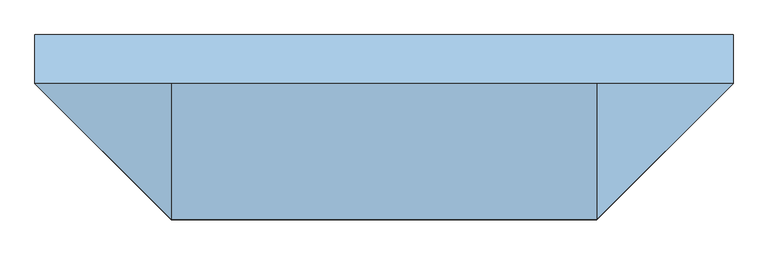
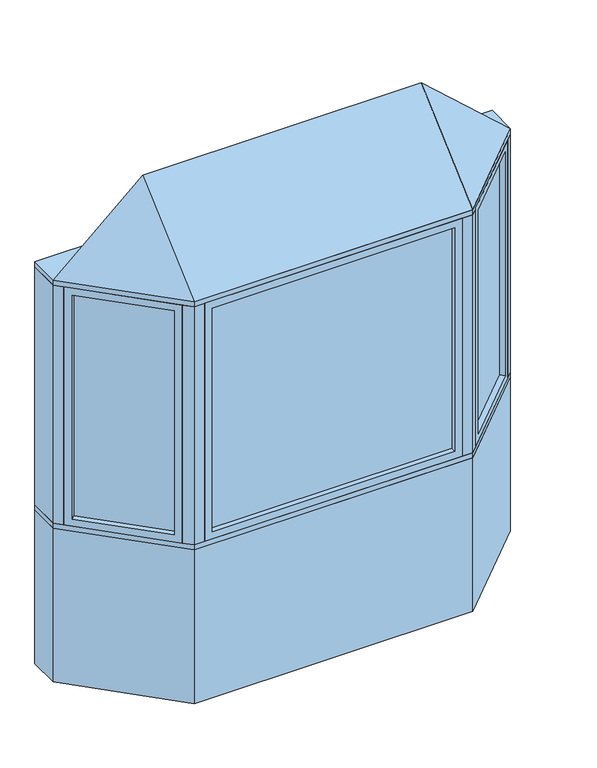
"""IFC4 building model written with IfcOpenShell, lengths in millimetres: window geometry, Pollard_Windows_Tudor Casement Bows and Bays : AML-BAY 45 AFR0512-12-500."""

from ifc_helpers import new_model, si_unit, frame, origin, origin_with_axes, place, context, project, spatial, polyline, outline, extrude, faceted_brep, source, transform, mapped, element, save


def window_ffebbee1(model_context):
    return source(origin(), model_context, "Body", "SolidModel", [
        extrude(outline(polyline([(1024.0964271, -104.763169), (698.324814, -430.5347822), (694.7327115, -426.9426797), (1020.5043247, -101.1710666), (1024.0964271, -104.763169)])), frame((0.0, 0.0, 823.1628), z_axis=(0.0, 0.0, 1.0), x_axis=(1.0, 0.0, 0.0)), (0.0, 0.0, 1.0), 1153.6704),
        faceted_brep([(1015.116171, -113.7434252, 835.8628), (1033.0766833, -131.7039374, 835.8628), (1033.0766833, -131.7039374, 1964.1332), (1015.116171, -113.7434252, 1964.1332), (1020.5043247, -101.1710666, 823.1628), (1024.0964271, -104.763169, 823.1628), (1024.0964271, -104.763169, 1976.8332), (1020.5043247, -101.1710666, 1976.8332), (993.5635563, -92.1908105, 835.8628), (1011.5240686, -110.1513227, 835.8628), (1011.5240686, -110.1513227, 1964.1332), (993.5635563, -92.1908105, 1964.1332), (1058.4369265, -106.3436941, 799.998), (1018.9237996, -66.8305672, 799.998), (1018.9237996, -66.8305672, 1999.998), (1058.4369265, -106.3436941, 1999.998), (725.2655823, -439.5150383, 1964.1332), (707.3050701, -421.5545261, 1964.1332), (698.324814, -430.5347822, 1976.8332), (694.7327115, -426.9426797, 1976.8332), (703.7129677, -417.9624236, 1964.1332), (685.7524554, -400.0019114, 1964.1332), (660.3922121, -425.3621547, 1999.998), (699.9053391, -464.8752816, 1999.998), (725.2655823, -439.5150383, 835.8628), (707.3050701, -421.5545261, 835.8628), (698.324814, -430.5347822, 823.1628), (694.7327115, -426.9426797, 823.1628), (703.7129677, -417.9624236, 835.8628), (685.7524554, -400.0019114, 835.8628), (660.3922121, -425.3621547, 799.998), (699.9053391, -464.8752816, 799.998)], [[[0, 1, 2, 3]], [[4, 5, 6, 7]], [[8, 9, 10, 11]], [[12, 13, 14, 15]], [[3, 2, 16, 17]], [[7, 6, 18, 19]], [[11, 10, 20, 21]], [[15, 14, 22, 23]], [[17, 16, 24, 25]], [[19, 18, 26, 27]], [[21, 20, 28, 29]], [[23, 22, 30, 31]], [[25, 24, 1, 0]], [[5, 26, 18, 6], [3, 17, 25, 0]], [[27, 26, 5, 4]], [[7, 19, 27, 4], [9, 28, 20, 10]], [[29, 28, 9, 8]], [[13, 30, 22, 14], [11, 21, 29, 8]], [[31, 30, 13, 12]], [[15, 23, 31, 12], [1, 24, 16, 2]]]),
        extrude(outline(polyline([(-698.324814, -430.5347822), (-1024.0964271, -104.763169), (-1020.5043247, -101.1710666), (-694.7327115, -426.9426797), (-698.324814, -430.5347822)])), frame((0.0, 0.0, 823.1628), z_axis=(0.0, 0.0, 1.0), x_axis=(1.0, 0.0, 0.0)), (0.0, 0.0, 1.0), 1153.6704),
        faceted_brep([(-703.7129677, -417.9624236, 1964.1332), (-685.7524554, -400.0019114, 1964.1332), (-685.7524554, -400.0019114, 835.8628), (-703.7129677, -417.9624236, 835.8628), (-698.324814, -430.5347822, 1976.8332), (-694.7327115, -426.9426797, 1976.8332), (-694.7327115, -426.9426797, 823.1628), (-698.324814, -430.5347822, 823.1628), (-725.2655823, -439.5150383, 1964.1332), (-707.3050701, -421.5545261, 1964.1332), (-707.3050701, -421.5545261, 835.8628), (-725.2655823, -439.5150383, 835.8628), (-660.3922121, -425.3621547, 1999.998), (-699.9053391, -464.8752816, 1999.998), (-699.9053391, -464.8752816, 799.998), (-660.3922121, -425.3621547, 799.998), (-993.5635563, -92.1908105, 835.8628), (-1011.5240686, -110.1513227, 835.8628), (-1020.5043247, -101.1710666, 823.1628), (-1024.0964271, -104.763169, 823.1628), (-1015.116171, -113.7434252, 835.8628), (-1033.0766833, -131.7039374, 835.8628), (-1058.4369265, -106.3436941, 799.998), (-1018.9237996, -66.8305672, 799.998), (-993.5635563, -92.1908105, 1964.1332), (-1011.5240686, -110.1513227, 1964.1332), (-1020.5043247, -101.1710666, 1976.8332), (-1024.0964271, -104.763169, 1976.8332), (-1015.116171, -113.7434252, 1964.1332), (-1033.0766833, -131.7039374, 1964.1332), (-1058.4369265, -106.3436941, 1999.998), (-1018.9237996, -66.8305672, 1999.998)], [[[0, 1, 2, 3]], [[4, 5, 6, 7]], [[8, 9, 10, 11]], [[12, 13, 14, 15]], [[3, 2, 16, 17]], [[7, 6, 18, 19]], [[11, 10, 20, 21]], [[15, 14, 22, 23]], [[17, 16, 24, 25]], [[19, 18, 26, 27]], [[21, 20, 28, 29]], [[23, 22, 30, 31]], [[15, 23, 31, 12], [1, 24, 16, 2]], [[25, 24, 1, 0]], [[5, 26, 18, 6], [3, 17, 25, 0]], [[27, 26, 5, 4]], [[7, 19, 27, 4], [9, 28, 20, 10]], [[29, 28, 9, 8]], [[13, 30, 22, 14], [11, 21, 29, 8]], [[31, 30, 13, 12]]]),
        extrude(outline(polyline([(591.3852, -474.8306207), (-591.3852, -474.8306207), (-591.3852, -469.7506207), (591.3852, -469.7506207), (591.3852, -474.8306207)])), frame((0.0, 0.0, 823.1628), z_axis=(0.0, 0.0, 1.0), x_axis=(1.0, 0.0, 0.0)), (0.0, 0.0, 1.0), 1153.6704),
        faceted_brep([(578.6852, -474.8306207, 835.8628), (578.6852, -500.2306207, 835.8628), (578.6852, -500.2306207, 1964.1332), (578.6852, -474.8306207, 1964.1332), (591.3852, -469.7506207, 823.1628), (591.3852, -474.8306207, 823.1628), (591.3852, -474.8306207, 1976.8332), (591.3852, -469.7506207, 1976.8332), (578.6852, -444.3506207, 835.8628), (578.6852, -469.7506207, 835.8628), (578.6852, -469.7506207, 1964.1332), (578.6852, -444.3506207, 1964.1332), (614.55, -500.2306207, 799.998), (614.55, -444.3506207, 799.998), (614.55, -444.3506207, 1999.998), (614.55, -500.2306207, 1999.998), (-578.6852, -500.2306207, 1964.1332), (-578.6852, -474.8306207, 1964.1332), (-591.3852, -474.8306207, 1976.8332), (-591.3852, -469.7506207, 1976.8332), (-578.6852, -469.7506207, 1964.1332), (-578.6852, -444.3506207, 1964.1332), (-614.55, -444.3506207, 1999.998), (-614.55, -500.2306207, 1999.998), (-578.6852, -500.2306207, 835.8628), (-578.6852, -474.8306207, 835.8628), (-591.3852, -474.8306207, 823.1628), (-591.3852, -469.7506207, 823.1628), (-578.6852, -469.7506207, 835.8628), (-578.6852, -444.3506207, 835.8628), (-614.55, -444.3506207, 799.998), (-614.55, -500.2306207, 799.998)], [[[0, 1, 2, 3]], [[4, 5, 6, 7]], [[8, 9, 10, 11]], [[12, 13, 14, 15]], [[3, 2, 16, 17]], [[7, 6, 18, 19]], [[11, 10, 20, 21]], [[15, 14, 22, 23]], [[17, 16, 24, 25]], [[19, 18, 26, 27]], [[21, 20, 28, 29]], [[23, 22, 30, 31]], [[15, 23, 31, 12], [1, 24, 16, 2]], [[25, 24, 1, 0]], [[5, 26, 18, 6], [3, 17, 25, 0]], [[27, 26, 5, 4]], [[7, 19, 27, 4], [9, 28, 20, 10]], [[29, 28, 9, 8]], [[13, 30, 22, 14], [11, 21, 29, 8]], [[31, 30, 13, 12]]]),
        faceted_brep([(1090.0, -74.7806207, 2025.398), (664.55, -500.2306207, 2025.398), (-664.55, -500.2306207, 2025.398), (-1090.0, -74.7806207, 2025.398), (-664.55, -74.7806207, 2406.398), (664.55, -74.7806207, 2406.398)], [[[0, 1, 2, 3]], [[3, 2, 4]], [[2, 1, 5, 4]], [[1, 0, 5]], [[0, 3, 4, 5]]]),
        extrude(outline(polyline([(-1090.0, 77.6193793), (1090.0, 77.6193793), (1090.0, -74.7806207), (664.55, -500.2306207), (-664.55, -500.2306207), (-1090.0, -74.7806207), (-1090.0, 77.6193793)])), frame((0.0, 0.0, 1999.998), z_axis=(0.0, 0.0, 1.0), x_axis=(1.0, 0.0, 0.0)), (0.0, 0.0, 1.0), 25.4),
        extrude(outline(polyline([(-1090.0, -74.7806207), (-1090.0, 77.6193793), (-1026.8738531, 77.6193793), (-1026.8738531, -74.7806207), (-1058.4369265, -106.3436941), (-1090.0, -74.7806207)])), frame((0.0, 0.0, 799.998), z_axis=(0.0, 0.0, 1.0), x_axis=(1.0, 0.0, 0.0)), (0.0, 0.0, 1.0), 1200.0),
        extrude(outline(polyline([(1090.0, 77.6193793), (1090.0, -74.7806207), (1058.4369265, -106.3436941), (1026.8738531, -74.7806207), (1026.8738531, 77.6193793), (1090.0, 77.6193793)])), frame((0.0, 0.0, 799.998), z_axis=(0.0, 0.0, 1.0), x_axis=(1.0, 0.0, 0.0)), (0.0, 0.0, 1.0), 1200.0),
        extrude(outline(polyline([(664.55, -500.2306207), (614.55, -500.2306207), (614.55, -450.2306207), (643.8393219, -450.2306207), (664.55, -429.5199425), (699.9053391, -464.8752816), (664.55, -500.2306207)])), frame((0.0, 0.0, 799.998), z_axis=(0.0, 0.0, 1.0), x_axis=(1.0, 0.0, 0.0)), (0.0, 0.0, 1.0), 1200.0),
        extrude(outline(polyline([(-664.55, -500.2306207), (-699.9053391, -464.8752816), (-664.55, -429.5199425), (-643.8393219, -450.2306207), (-614.55, -450.2306207), (-614.55, -500.2306207), (-664.55, -500.2306207)])), frame((0.0, 0.0, 799.998), z_axis=(0.0, 0.0, 1.0), x_axis=(1.0, 0.0, 0.0)), (0.0, 0.0, 1.0), 1200.0),
        extrude(outline(polyline([(-664.55, -500.2306207), (-1090.0, -74.7806207), (-1090.0, 77.6193793), (-1026.8738531, 77.6193793), (-601.4238531, -347.8306207), (601.4238531, -347.8306207), (1026.8738531, 77.6193793), (1090.0, 77.6193793), (1090.0, -74.7806207), (664.55, -500.2306207), (-664.55, -500.2306207)])), frame((0.0, 0.0, 774.598), z_axis=(0.0, 0.0, 1.0), x_axis=(1.0, 0.0, 0.0)), (0.0, 0.0, 1.0), 25.4),
        extrude(outline(polyline([(-1090.0, -74.7806207), (-1090.0, 77.6193793), (-1026.8738531, 77.6193793), (-601.4238531, -347.8306207), (601.4238531, -347.8306207), (1026.8738531, 77.6193793), (1090.0, 77.6193793), (1090.0, -74.7806207), (664.55, -500.2306207), (-664.55, -500.2306207), (-1090.0, -74.7806207)])), origin_with_axes(), (0.0, 0.0, 1.0), 774.598),
    ])


if __name__ == "__main__":
    model = new_model("IFC4")
    model_context = context("Model", 3, world=origin())
    ifc_project = project(units=[si_unit("LENGTHUNIT", "METRE", prefix="MILLI")], contexts=[model_context])
    site = spatial("IfcSite", under=ifc_project)
    building = spatial("IfcBuilding", under=site)
    placement = place(None, origin())
    window_shape = window_ffebbee1(model_context)
    element("IfcWindow", 1, ObjectType="Pollard_Windows_Tudor Casement Bows and Bays : AML-BAY 45 AFR0512-12-500", at=placement, inside=building, context=model_context, shape_type="MappedRepresentation", body=[
        mapped(window_shape, transform((0.0, 0.0, 0.0), x_axis=(1.0, 0.0, 0.0), y_axis=(0.0, 1.0, 0.0), z_axis=(0.0, 0.0, 1.0))),
    ])
    save(model, "model.ifc")
